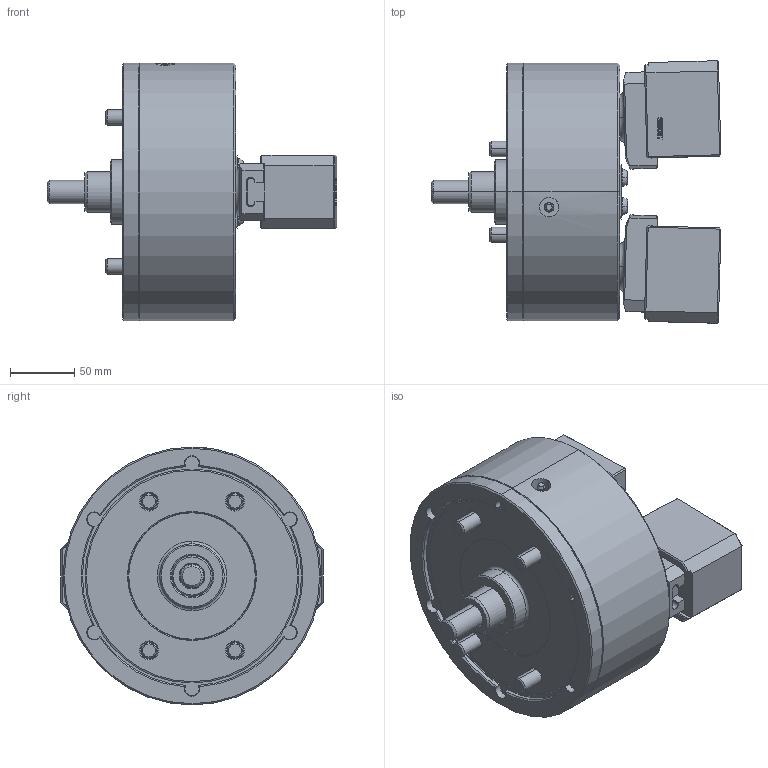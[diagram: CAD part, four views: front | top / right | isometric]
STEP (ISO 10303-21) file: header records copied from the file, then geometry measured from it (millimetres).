
FILE_DESCRIPTION (( 'STEP AP214' ), '1' );
FILE_NAME ('PWT08_OC_ID.STEP', '2019-10-21T05:07:34', ( '' ), ( '' ), 'SwSTEP 2.0', 'SolidWorks 2017', '' );
FILE_SCHEMA (( 'AUTOMOTIVE_DESIGN' ));
Length unit declared in the file: millimetre
Products named in the file (5): PWT08_OC_ID; 61P420336; 0030112020; 61P332344; 結合_ID
Assembly tree (9 placements, depth 2):
  PWT08_OC_ID
    61P420336  x2
    61P332344  x2
    0030112020  x4
    結合_ID
Bounding box: 224.79 x 203.61 x 200 mm (x, y, z)
Volume: 3194117.4 mm3; surface area: 276114.2 mm2
Topology: 9 solids, 10 shells, 1713 faces, 4301 edges, 2726 vertices
Faces by surface type: plane 819, bspline 356, cone 268, cylinder 218, torus 52
Entity records: 52941 total; most frequent: CARTESIAN_POINT 20954, ORIENTED_EDGE 7070, DIRECTION 5666, EDGE_CURVE 3535, VERTEX_POINT 2251, VECTOR 1938, LINE 1938, AXIS2_PLACEMENT_3D 1864
